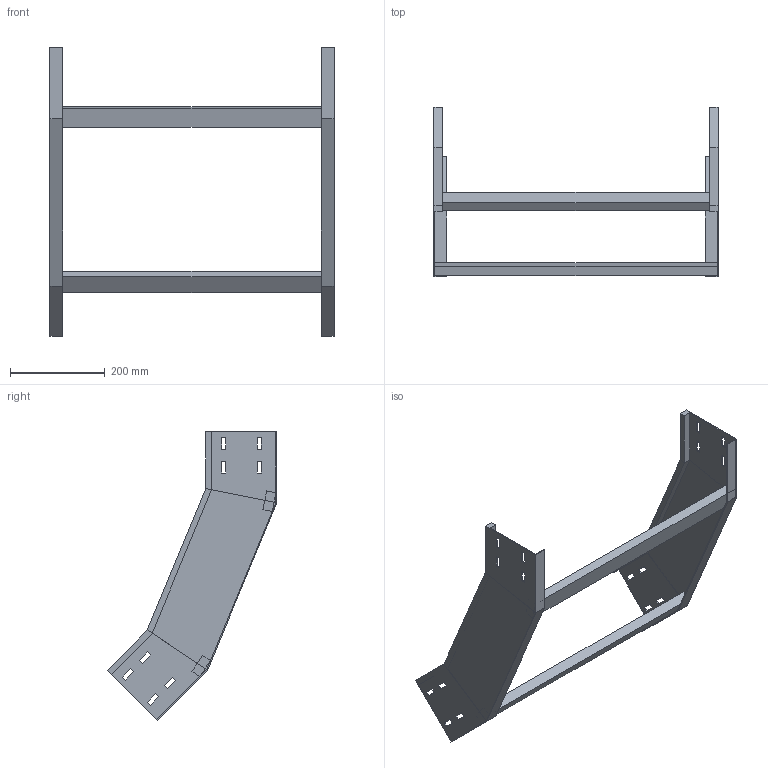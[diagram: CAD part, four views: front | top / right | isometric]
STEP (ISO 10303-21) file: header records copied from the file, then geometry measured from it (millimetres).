
FILE_DESCRIPTION (( 'STEP AP214' ), '1' );
FILE_NAME ('31J5F600.step', '2025-02-21T16:26:26', ( '' ), ( '' ), 'SwSTEP 2.0', 'SolidWorks 2023', '' );
FILE_SCHEMA (( 'AUTOMOTIVE_DESIGN' ));
Length unit declared in the file: millimetre
Products named in the file (3): LONGH.SALITA_45°_H150_R500; TRAVERSINO_600; 31J5F600
Assembly tree (4 placements, depth 2):
  31J5F600
    LONGH.SALITA_45°_H150_R500  x2
    TRAVERSINO_600  x2
Bounding box: 600 x 358.7 x 609.91 mm (x, y, z)
Volume: 1618812 mm3; surface area: 628198.1 mm2
Topology: 4 solids, 4 shells, 128 faces, 328 edges, 208 vertices
Faces by surface type: plane 128
Entity records: 2016 total; most frequent: CARTESIAN_POINT 339, ORIENTED_EDGE 328, DIRECTION 306, LINE 164, VECTOR 164, EDGE_CURVE 164, VERTEX_POINT 104, EDGE_LOOP 80
